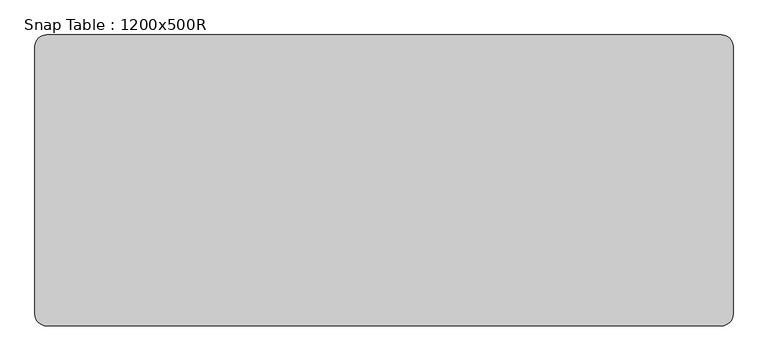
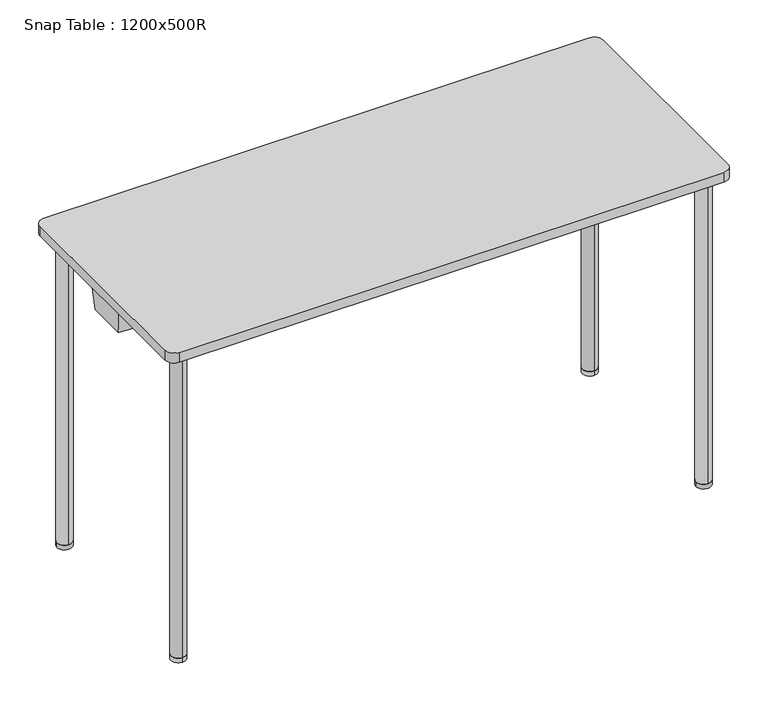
"""IFC4 building model written with IfcOpenShell, lengths in millimetres: furniture geometry, Snap Table : 1200x500R."""

import ifcopenshell
import ifcopenshell.guid

model = None  # the IFC model being written
_history = None  # IfcOwnerHistory: only IFC2X3 demands one
_inside = {}  # id of a spatial element -> (the spatial element, [elements in it])
_under = {}  # id of a project, library or spatial element -> (it, [spatial elements below it])
_declared = {}  # id of a project -> (the project, [libraries it declares])
_typed = {}  # id of a type object -> (the type object, [elements of that type])
_made_of = {}  # id of a material, layer set ... -> (it, [elements and type objects made of it])


def new_model(schema):
    """Start an empty IFC model of exactly this schema.

    Asked for "IFC4X3", IfcOpenShell would pick the latest addendum, in which some entities
    have other attributes; the version numbers below select the first issue.
    IFC2X3 requires an IfcOwnerHistory on every rooted entity: one is made here for all.
    """
    global model, _history
    if schema == "IFC4X3":
        model = ifcopenshell.file(schema_version=(4, 3, 0, 0))
    else:
        model = ifcopenshell.file(schema=schema)
    _inside.clear()
    _under.clear()
    _declared.clear()
    _typed.clear()
    _made_of.clear()
    _history = None
    if model.schema == "IFC2X3":
        org = make("IfcOrganization", Name="unknown")
        user = make(
            "IfcPersonAndOrganization",
            ThePerson=make("IfcPerson", FamilyName="unknown"),
            TheOrganization=org,
        )
        app = make(
            "IfcApplication",
            ApplicationDeveloper=org,
            Version="unknown",
            ApplicationFullName="unknown",
            ApplicationIdentifier="unknown",
        )
        _history = make(
            "IfcOwnerHistory",
            OwningUser=user,
            OwningApplication=app,
            ChangeAction="ADDED",
            CreationDate=0,
        )
    return model


def make(cls, **values):
    """One entity of the class cls with the attributes given. An attribute that is None is left unset."""
    return model.create_entity(
        cls, **{name: value for name, value in values.items() if value is not None}
    )


def rooted(cls, **values):
    """An entity with a GlobalId (a new one), such as an element, a storey or a relation."""
    return make(cls, GlobalId=ifcopenshell.guid.new(), OwnerHistory=_history, **values)


def si_unit(unit_type, name, prefix=None):
    """IfcSIUnit, for example si_unit("LENGTHUNIT", "METRE", prefix="MILLI")."""
    return make("IfcSIUnit", UnitType=unit_type, Prefix=prefix, Name=name)


def assignment(units):
    """IfcUnitAssignment: the units of a project."""
    return None if units is None else make("IfcUnitAssignment", Units=units)


def point(xyz):
    """IfcCartesianPoint."""
    return None if xyz is None else make("IfcCartesianPoint", Coordinates=xyz)


def direction(xyz):
    """IfcDirection."""
    return None if xyz is None else make("IfcDirection", DirectionRatios=xyz)


def frame(location, z_axis=None, x_axis=None):
    """IfcAxis2Placement3D, a coordinate frame: its origin and axes. An axis left out is left unset."""
    return make(
        "IfcAxis2Placement3D",
        Location=point(location),
        Axis=direction(z_axis),
        RefDirection=direction(x_axis),
    )


def frame_2d(location, x_axis=None):
    """IfcAxis2Placement2D, a coordinate frame in the plane: its origin and x axis."""
    return make(
        "IfcAxis2Placement2D", Location=point(location), RefDirection=direction(x_axis)
    )


def origin():
    """The frame at (0, 0, 0) with its axes left unset."""
    return frame((0.0, 0.0, 0.0))


def origin_with_axes():
    """The frame at (0, 0, 0) with the z axis (0, 0, 1) and the x axis (1, 0, 0) written out."""
    return frame((0.0, 0.0, 0.0), z_axis=(0.0, 0.0, 1.0), x_axis=(1.0, 0.0, 0.0))


def place(relative_to, where):
    """IfcLocalPlacement: puts the frame where relative to a parent placement (None: the world)."""
    return make(
        "IfcLocalPlacement", PlacementRelTo=relative_to, RelativePlacement=where
    )


def context(
    kind, dimensions, precision=None, world=None, true_north=None, identifier=None
):
    """IfcGeometricRepresentationContext, for example the 3D "Model" context."""
    return make(
        "IfcGeometricRepresentationContext",
        ContextIdentifier=identifier,
        ContextType=kind,
        CoordinateSpaceDimension=dimensions,
        Precision=precision,
        WorldCoordinateSystem=world,
        TrueNorth=true_north,
    )


def project(units=None, contexts=None):
    """IfcProject with its units and contexts."""
    return rooted(
        "IfcProject",
        Name="project",
        RepresentationContexts=contexts,
        UnitsInContext=assignment(units),
    )


def spatial(cls, under=None, at=None, **own):
    """A site, building, storey or space (cls), placed at a placement, below another one or the project."""
    s = rooted(cls, ObjectPlacement=at, **own)
    if under is not None:
        _under.setdefault(under.id(), (under, []))[1].append(s)
    return s


def polyline(points):
    """IfcPolyline through the points."""
    return make("IfcPolyline", Points=[point(p) for p in points])


def circle_curve(where, radius):
    """IfcCircle in the frame where."""
    return make("IfcCircle", Position=where, Radius=radius)


def ellipse_curve(where, semi_axis1, semi_axis2):
    """IfcEllipse in the frame where."""
    return make(
        "IfcEllipse", Position=where, SemiAxis1=semi_axis1, SemiAxis2=semi_axis2
    )


def trimmed(basis, trim1, trim2, sense, master):
    """IfcTrimmedCurve: the piece of a basis curve between two trims."""
    return make(
        "IfcTrimmedCurve",
        BasisCurve=basis,
        Trim1=trim1,
        Trim2=trim2,
        SenseAgreement=sense,
        MasterRepresentation=master,
    )


def segment(curve, same_sense, transition):
    """IfcCompositeCurveSegment."""
    return make(
        "IfcCompositeCurveSegment",
        Transition=transition,
        SameSense=same_sense,
        ParentCurve=curve,
    )


def composite_curve(segments, self_intersect=None):
    """IfcCompositeCurve: segments joined end to end."""
    return make("IfcCompositeCurve", Segments=segments, SelfIntersect=self_intersect)


def outline(outer, holes=None, kind="AREA"):
    """IfcArbitraryClosedProfileDef: a profile drawn as a closed curve; with holes, ...WithVoids."""
    if holes is None:
        return make("IfcArbitraryClosedProfileDef", ProfileType=kind, OuterCurve=outer)
    return make(
        "IfcArbitraryProfileDefWithVoids",
        ProfileType=kind,
        OuterCurve=outer,
        InnerCurves=holes,
    )


def extrude(swept, where, along, depth):
    """IfcExtrudedAreaSolid: the profile swept, set in the frame where, extruded along a direction by depth."""
    return make(
        "IfcExtrudedAreaSolid",
        SweptArea=swept,
        Position=where,
        ExtrudedDirection=direction(along),
        Depth=depth,
    )


def faces_of(points, faces, orient=None, outer=None):
    """IfcFace entities. A face is a list of loops; a loop is a list of indices into points, from 0.

    orient and outer hold one flag for each loop. By default every Orientation is true, the
    first loop of a face is its IfcFaceOuterBound and the others are IfcFaceBound.
    """
    made = []
    for i, loops in enumerate(faces):
        bounds = []
        for j, loop in enumerate(loops):
            is_outer = j == 0 if outer is None else outer[i][j]
            bounds.append(
                make(
                    "IfcFaceOuterBound" if is_outer else "IfcFaceBound",
                    Bound=make("IfcPolyLoop", Polygon=[points[k] for k in loop]),
                    Orientation=True if orient is None else orient[i][j],
                )
            )
        made.append(make("IfcFace", Bounds=bounds))
    return made


def faceted_brep(points, faces, orient=None, outer=None, voids=None):
    """IfcFacetedBrep: a solid bounded by flat faces; with voids (closed shells), ...WithVoids."""
    shared = [point(p) for p in points]
    hull = make("IfcClosedShell", CfsFaces=faces_of(shared, faces, orient, outer))
    if voids is None:
        return make("IfcFacetedBrep", Outer=hull)
    return make(
        "IfcFacetedBrepWithVoids",
        Outer=hull,
        Voids=[
            make(cls, CfsFaces=faces_of(shared, fs, o, b)) for cls, fs, o, b in voids
        ],
    )


def shape(context_of_items, identifier, shape_type, items):
    """IfcShapeRepresentation: the items that make up one representation, for example the "Body"."""
    return make(
        "IfcShapeRepresentation",
        ContextOfItems=context_of_items,
        RepresentationIdentifier=identifier,
        RepresentationType=shape_type,
        Items=items,
    )


def source(mapping_origin, context_of_items, identifier, shape_type, items):
    """IfcRepresentationMap: a shape defined once, which mapped items show again and again."""
    return make(
        "IfcRepresentationMap",
        MappingOrigin=mapping_origin,
        MappedRepresentation=shape(context_of_items, identifier, shape_type, items),
    )


def transform(
    local_origin,
    x_axis=None,
    y_axis=None,
    z_axis=None,
    scale=None,
    scale2=None,
    scale3=None,
    uniform=True,
):
    """IfcCartesianTransformationOperator3D, or its non-uniform kind. x_axis, y_axis, z_axis: its Axis1, 2, 3."""
    if uniform:
        return make(
            "IfcCartesianTransformationOperator3D",
            Axis1=direction(x_axis),
            Axis2=direction(y_axis),
            LocalOrigin=point(local_origin),
            Scale=scale,
            Axis3=direction(z_axis),
        )
    return make(
        "IfcCartesianTransformationOperator3DnonUniform",
        Axis1=direction(x_axis),
        Axis2=direction(y_axis),
        LocalOrigin=point(local_origin),
        Scale=scale,
        Axis3=direction(z_axis),
        Scale2=scale2,
        Scale3=scale3,
    )


def mapped(mapping_source, mapping_target):
    """IfcMappedItem: shows the shape of a source again, moved by a transform."""
    return make(
        "IfcMappedItem", MappingSource=mapping_source, MappingTarget=mapping_target
    )


def made_of(thing, what):
    """Note that an element or type object is made of a material, layer set ...; save() writes the relation."""
    if what is not None:
        _made_of.setdefault(what.id(), (what, []))[1].append(thing)
    return thing


def element(
    cls,
    number,
    at=None,
    inside=None,
    cuts=None,
    type_object=None,
    material=None,
    context=None,
    identifier="Body",
    shape_type=None,
    held_by="IfcProductDefinitionShape",
    body=None,
    shapes=None,
    **own,
):
    """One element of the class cls, such as IfcWall. Its Tag is "e" and its number.

    at: its placement. inside: the storey or other place that contains it. cuts: it is an
    opening in that element (IfcRelVoidsElement). A single representation is given by context,
    identifier, shape_type and body (its items); several are given by shapes. held_by: the class
    of the entity that holds the representations. save() writes the other relations.
    """
    e = rooted(cls, Tag="e%d" % number, ObjectPlacement=at, **own)
    if body is not None:
        shapes = [shape(context, identifier, shape_type, body)]
    if shapes is not None:
        e.Representation = make(held_by, Representations=shapes)
    if inside is not None:
        _inside.setdefault(inside.id(), (inside, []))[1].append(e)
    if cuts is not None:
        rooted(
            "IfcRelVoidsElement", RelatingBuildingElement=cuts, RelatedOpeningElement=e
        )
    if type_object is not None:
        _typed.setdefault(type_object.id(), (type_object, []))[1].append(e)
    return made_of(e, material)


def aggregate(whole, parts):
    """IfcRelAggregates: a whole, such as a stair, and the parts it consists of."""
    return rooted("IfcRelAggregates", RelatingObject=whole, RelatedObjects=parts)


def save(model, path):
    """Write the relations noted so far, then the file.

    IfcRelAggregates (storeys below a building ...), IfcRelContainedInSpatialStructure (elements
    in a storey), IfcRelDefinesByType, IfcRelAssociatesMaterial and IfcRelDeclares: one each for
    every whole, place, type object, material and project.
    """
    for whole, parts in _under.values():
        aggregate(whole, parts)
    for where, things in _inside.values():
        rooted(
            "IfcRelContainedInSpatialStructure",
            RelatedElements=things,
            RelatingStructure=where,
        )
    for kind, things in _typed.values():
        rooted("IfcRelDefinesByType", RelatedObjects=things, RelatingType=kind)
    for what, things in _made_of.values():
        rooted("IfcRelAssociatesMaterial", RelatedObjects=things, RelatingMaterial=what)
    for by, libraries in _declared.values():
        rooted("IfcRelDeclares", RelatingContext=by, RelatedDefinitions=libraries)
    model.write(path)


def plane_surface(at):
    """IfcPlane: the flat surface through the origin of the frame at, square to its z axis."""
    return make("IfcPlane", Position=at)


def cylinder_surface(at, radius):
    """IfcCylindricalSurface: all points at the distance radius from the z axis of the frame at."""
    return make("IfcCylindricalSurface", Position=at, Radius=radius)


def revolved_surface(curve, axis_point, axis_direction):
    """IfcSurfaceOfRevolution: the curve turned about the line through axis_point along axis_direction."""
    return make(
        "IfcSurfaceOfRevolution",
        SweptCurve=make("IfcArbitraryOpenProfileDef", ProfileType="CURVE", Curve=curve),
        AxisPosition=make("IfcAxis1Placement", Location=point(axis_point), Axis=direction(axis_direction)),
    )


def advanced_brep(points, edges, surfaces, faces):
    """IfcAdvancedBrep: a solid bounded by faces that lie on surfaces and meet in shared edges.

    An edge is (start, end): straight between two places in points (the first is 0);
    or (start, end, curve); or (start, end, curve, False) where it runs against its curve.
    A face is (place in surfaces, loops), or (place, loops, False) where it looks against
    its surface's normal. A loop lists edges by number (the first is 1), with a minus sign
    where the edge is run from its end to its start. The first loop is the outer one.
    """
    corners = [point(p) for p in points]
    vertices = [make("IfcVertexPoint", VertexGeometry=c) for c in corners]
    made = []
    for start, end, *more in edges:
        made.append(
            make(
                "IfcEdgeCurve",
                EdgeStart=vertices[start],
                EdgeEnd=vertices[end],
                EdgeGeometry=more[0] if more else make("IfcPolyline", Points=[corners[start], corners[end]]),
                SameSense=more[1] if len(more) > 1 else True,
            )
        )
    hull = []
    for where, loops, *sense in faces:
        bounds = []
        for j, loop in enumerate(loops):
            ring = [make("IfcOrientedEdge", EdgeElement=made[abs(k) - 1], Orientation=k > 0) for k in loop]
            bounds.append(
                make(
                    "IfcFaceOuterBound" if j == 0 else "IfcFaceBound",
                    Bound=make("IfcEdgeLoop", EdgeList=ring),
                    Orientation=True,
                )
            )
        hull.append(make("IfcAdvancedFace", Bounds=bounds, FaceSurface=surfaces[where], SameSense=sense[0] if sense else True))
    return make("IfcAdvancedBrep", Outer=make("IfcClosedShell", CfsFaces=hull))


def snap_table_1200x500r_93d43e71(model_context):
    return source(origin(), model_context, "Body", "SolidModel", [
        extrude(outline(composite_curve([segment(trimmed(circle_curve(frame_2d((560.0, -210.0)), 16.0), [point((576.0, -210.0))], [point((544.0, -210.0))], False, "CARTESIAN"), True, "CONTINUOUS"), segment(trimmed(circle_curve(frame_2d((560.0, -210.0)), 16.0), [point((544.0, -210.0))], [point((576.0, -210.0))], False, "CARTESIAN"), True, "CONTINUOUS")], self_intersect=False)), origin_with_axes(), (0.0, 0.0, 1.0), 10.0),
        extrude(outline(composite_curve([segment(trimmed(circle_curve(frame_2d((560.0, 210.0)), 16.0), [point((560.0, 194.0))], [point((560.0, 226.0))], False, "CARTESIAN"), True, "CONTINUOUS"), segment(trimmed(circle_curve(frame_2d((560.0, 210.0)), 16.0), [point((560.0, 226.0))], [point((560.0, 194.0))], False, "CARTESIAN"), True, "CONTINUOUS")], self_intersect=False)), origin_with_axes(), (0.0, 0.0, 1.0), 10.0),
        advanced_brep(
        [(560.0, -226.0, 10.0), (560.0, -194.0, 10.0), (560.0, -226.0, 689.0), (560.0, -194.0, 657.0), (560.0, 226.0, 689.0), (560.0, 194.0, 657.0), (560.0, 226.0, 10.0), (560.0, 194.0, 10.0)],
        [
            (0, 1, circle_curve(frame((560.0, -210.0, 10.0), z_axis=(0.0, 0.0, -1.0), x_axis=(0.0, 1.0, 0.0)), 16.0)),
            (1, 0, circle_curve(frame((560.0, -210.0, 10.0), z_axis=(0.0, 0.0, -1.0), x_axis=(0.0, 1.0, 0.0)), 16.0)),
            (0, 2),
            (2, 3, ellipse_curve(frame((560.0, -210.0, 673.0), z_axis=(0.0, -0.7071067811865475, -0.7071067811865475), x_axis=(0.0, 0.7071067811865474, -0.7071067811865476)), 22.627417, 16.0)),
            (3, 1),
            (3, 2, ellipse_curve(frame((560.0, -210.0, 673.0), z_axis=(0.0, -0.7071067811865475, -0.7071067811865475), x_axis=(0.0, 0.7071067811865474, -0.7071067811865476)), 22.627417, 16.0)),
            (2, 4),
            (4, 5, ellipse_curve(frame((560.0, 210.0, 673.0), z_axis=(0.0, -0.7071067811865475, 0.7071067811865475), x_axis=(0.0, -0.7071067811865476, -0.7071067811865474)), 22.627417, 16.0)),
            (5, 3),
            (5, 4, ellipse_curve(frame((560.0, 210.0, 673.0), z_axis=(0.0, -0.7071067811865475, 0.7071067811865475), x_axis=(0.0, -0.7071067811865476, -0.7071067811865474)), 22.627417, 16.0)),
            (6, 7, circle_curve(frame((560.0, 210.0, 10.0), z_axis=(0.0, 0.0, -1.0), x_axis=(0.0, -1.0, 0.0)), 16.0)),
            (7, 6, circle_curve(frame((560.0, 210.0, 10.0), z_axis=(0.0, 0.0, -1.0), x_axis=(0.0, -1.0, 0.0)), 16.0)),
            (4, 6),
            (7, 5),
        ],
        [
            plane_surface(frame((560.0, -210.0, 10.0), z_axis=(0.0, 0.0, -1.0), x_axis=(-1.0, 0.0, 0.0))),
            cylinder_surface(frame((560.0, -210.0, 10.0), z_axis=(0.0, 0.0, -1.0), x_axis=(0.0, 1.0, 0.0)), 16.0),
            cylinder_surface(frame((560.0, -210.0, 673.0), z_axis=(0.0, -1.0, 0.0), x_axis=(0.0, 0.0, -1.0)), 16.0),
            plane_surface(frame((560.0, 210.0, 10.0), z_axis=(0.0, 0.0, -1.0), x_axis=(-1.0, 0.0, 0.0))),
            cylinder_surface(frame((560.0, 210.0, 673.0), z_axis=(0.0, 0.0, 1.0), x_axis=(0.0, -1.0, 0.0)), 16.0),
        ],
        [
            (0, [[1, 2]]),
            (1, [[-1, 3, 4, 5]]),
            (1, [[-2, -5, 6, -3]]),
            (2, [[-4, 7, 8, 9]]),
            (2, [[-6, -9, 10, -7]]),
            (3, [[11, 12]]),
            (4, [[-8, 13, -12, 14]]),
            (4, [[-10, -14, -11, -13]]),
        ],
    ),
        extrude(outline(composite_curve([segment(trimmed(circle_curve(frame_2d((-560.0470276, 210.0)), 16.0), [point((-576.0470276, 210.0))], [point((-544.0470276, 210.0))], False, "CARTESIAN"), True, "CONTINUOUS"), segment(trimmed(circle_curve(frame_2d((-560.0470276, 210.0)), 16.0), [point((-544.0470276, 210.0))], [point((-576.0470276, 210.0))], False, "CARTESIAN"), True, "CONTINUOUS")], self_intersect=False)), origin_with_axes(), (0.0, 0.0, 1.0), 10.0),
        extrude(outline(composite_curve([segment(trimmed(circle_curve(frame_2d((-560.0470276, -210.0)), 16.0), [point((-560.0470276, -194.0))], [point((-560.0470276, -226.0))], False, "CARTESIAN"), True, "CONTINUOUS"), segment(trimmed(circle_curve(frame_2d((-560.0470276, -210.0)), 16.0), [point((-560.0470276, -226.0))], [point((-560.0470276, -194.0))], False, "CARTESIAN"), True, "CONTINUOUS")], self_intersect=False)), origin_with_axes(), (0.0, 0.0, 1.0), 10.0),
        advanced_brep(
        [(-560.0470276, 226.0, 10.0), (-560.0470276, 194.0, 10.0), (-560.0470276, 226.0, 689.0), (-560.0470276, 194.0, 657.0), (-560.0470276, -226.0, 689.0), (-560.0470276, -194.0, 657.0), (-560.0470276, -226.0, 10.0), (-560.0470276, -194.0, 10.0)],
        [
            (0, 1, circle_curve(frame((-560.0470276, 210.0, 10.0), z_axis=(0.0, 0.0, -1.0), x_axis=(0.0, -1.0, 0.0)), 16.0)),
            (1, 0, circle_curve(frame((-560.0470276, 210.0, 10.0), z_axis=(0.0, 0.0, -1.0), x_axis=(0.0, -1.0, 0.0)), 16.0)),
            (0, 2),
            (2, 3, ellipse_curve(frame((-560.0470276, 210.0, 673.0), z_axis=(0.0, 0.7071067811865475, -0.7071067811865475), x_axis=(0.0, -0.7071067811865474, -0.7071067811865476)), 22.627417, 16.0)),
            (3, 1),
            (3, 2, ellipse_curve(frame((-560.0470276, 210.0, 673.0), z_axis=(0.0, 0.7071067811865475, -0.7071067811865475), x_axis=(0.0, -0.7071067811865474, -0.7071067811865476)), 22.627417, 16.0)),
            (2, 4),
            (4, 5, ellipse_curve(frame((-560.0470276, -210.0, 673.0), z_axis=(0.0, 0.7071067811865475, 0.7071067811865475), x_axis=(0.0, 0.7071067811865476, -0.7071067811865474)), 22.627417, 16.0)),
            (5, 3),
            (5, 4, ellipse_curve(frame((-560.0470276, -210.0, 673.0), z_axis=(0.0, 0.7071067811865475, 0.7071067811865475), x_axis=(0.0, 0.7071067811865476, -0.7071067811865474)), 22.627417, 16.0)),
            (6, 7, circle_curve(frame((-560.0470276, -210.0, 10.0), z_axis=(0.0, 0.0, -1.0), x_axis=(0.0, 1.0, 0.0)), 16.0)),
            (7, 6, circle_curve(frame((-560.0470276, -210.0, 10.0), z_axis=(0.0, 0.0, -1.0), x_axis=(0.0, 1.0, 0.0)), 16.0)),
            (4, 6),
            (7, 5),
        ],
        [
            plane_surface(frame((-560.0470276, 210.0, 10.0), z_axis=(0.0, 0.0, -1.0), x_axis=(1.0, 0.0, 0.0))),
            cylinder_surface(frame((-560.0470276, 210.0, 10.0), z_axis=(0.0, 0.0, -1.0), x_axis=(0.0, -1.0, 0.0)), 16.0),
            cylinder_surface(frame((-560.0470276, 210.0, 673.0), z_axis=(0.0, 1.0, 0.0), x_axis=(0.0, 0.0, -1.0)), 16.0),
            plane_surface(frame((-560.0470276, -210.0, 10.0), z_axis=(0.0, 0.0, -1.0), x_axis=(1.0, 0.0, 0.0))),
            cylinder_surface(frame((-560.0470276, -210.0, 673.0), z_axis=(0.0, 0.0, 1.0), x_axis=(0.0, 1.0, 0.0)), 16.0),
        ],
        [
            (0, [[1, 2]]),
            (1, [[-1, 3, 4, 5]]),
            (1, [[-2, -5, 6, -3]]),
            (2, [[-4, 7, 8, 9]]),
            (2, [[-6, -9, 10, -7]]),
            (3, [[11, 12]]),
            (4, [[-8, 13, -12, 14]]),
            (4, [[-10, -14, -11, -13]]),
        ],
    ),
        extrude(outline(composite_curve([segment(trimmed(circle_curve(frame_2d((580.0, 230.0)), 20.0), [point((580.0, 250.0))], [point((600.0, 230.0))], False, "CARTESIAN"), True, "CONTINUOUS"), segment(polyline([(600.0, 230.0), (600.0, -230.0)]), True, "CONTINUOUS"), segment(trimmed(circle_curve(frame_2d((580.0, -230.0)), 20.0), [point((600.0, -230.0))], [point((580.0, -250.0))], False, "CARTESIAN"), True, "CONTINUOUS"), segment(polyline([(580.0, -250.0), (-580.0, -250.0)]), True, "CONTINUOUS"), segment(trimmed(circle_curve(frame_2d((-580.0, -230.0)), 20.0), [point((-580.0, -250.0))], [point((-600.0, -230.0))], False, "CARTESIAN"), True, "CONTINUOUS"), segment(polyline([(-600.0, -230.0), (-600.0, 230.0)]), True, "CONTINUOUS"), segment(trimmed(circle_curve(frame_2d((-580.0, 230.0)), 20.0), [point((-600.0, 230.0))], [point((-580.0, 250.0))], False, "CARTESIAN"), True, "CONTINUOUS"), segment(polyline([(-580.0, 250.0), (580.0, 250.0)]), True, "CONTINUOUS")], self_intersect=False)), frame((0.0, 0.0, 698.0), z_axis=(0.0, 0.0, 1.0), x_axis=(1.0, 0.0, 0.0)), (0.0, 0.0, 1.0), 22.0),
        advanced_brep(
        [(-590.8110657, 42.2236058, 643.0), (-557.6910354, 44.5767873, 643.0), (-540.5708933, 36.0824003, 643.0), (540.5710292, 36.0824678, 643.0), (557.6910354, 44.5767873, 643.0), (590.8110657, 42.2236058, 643.0), (590.8110657, -42.2236058, 643.0), (557.6044607, -44.2417031, 643.0), (540.4018781, -36.0497649, 643.0), (-540.4020196, -36.0498323, 643.0), (-557.6044607, -44.2417031, 643.0), (-590.8110657, -42.2236058, 643.0), (-594.8110657, 48.9570516, 698.0), (-594.8110657, -48.9934252, 698.0), (-556.225892, -51.3383995, 698.0), (-534.6205129, -41.049832, 698.0), (534.6203726, -41.0497653, 698.0), (556.225892, -51.3383995, 698.0), (594.8110657, -48.9934252, 698.0), (594.8110657, 48.9570516, 698.0), (556.286594, 51.6942192, 698.0), (534.8989768, 41.0824675, 698.0), (-534.8988421, 41.0824007, 698.0), (-556.286594, 51.6942192, 698.0), (-557.2475737, -46.0789118, 657.2385232), (-576.0, -46.9489596, 673.0), (-556.4614069, -50.125999, 688.6037931), (-544.0, -41.9922101, 673.0), (557.2475737, -46.0789118, 657.2385232), (544.0, -41.9922101, 673.0), (556.4614069, -50.125999, 688.6037931), (576.0, -46.9489596, 673.0), (557.3278029, 46.4175782, 657.2247231), (576.0, 47.1037405, 673.0), (556.5261576, 50.4801582, 688.618336), (544.0, 42.0461233, 673.0), (-557.3278029, 46.4175782, 657.2247231), (-544.0, 42.0461233, 673.0), (-556.5261576, 50.4801582, 688.618336), (-576.0, 47.1037405, 673.0)],
        [
            (0, 1),
            (1, 2),
            (2, 3),
            (3, 4),
            (4, 5),
            (5, 6),
            (6, 7),
            (7, 8),
            (8, 9),
            (9, 10),
            (10, 11),
            (11, 0),
            (12, 13),
            (13, 14),
            (14, 15),
            (15, 16),
            (16, 17),
            (17, 18),
            (18, 19),
            (19, 20),
            (20, 21),
            (21, 22),
            (22, 23),
            (23, 12),
            (11, 13),
            (12, 0),
            (10, 24),
            (24, 25, ellipse_curve(frame((-560.0, -47.9213432, 673.0), z_axis=(0.060176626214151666, 0.9901710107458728, 0.12625427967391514), x_axis=(0.42602826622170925, -0.13986196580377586, 0.893833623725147)), 16.1588249, 16.0)),
            (25, 26, ellipse_curve(frame((-560.0, -47.9213432, 673.0), z_axis=(0.060176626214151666, 0.9901710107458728, 0.12625427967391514), x_axis=(0.42602826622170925, -0.13986196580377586, 0.893833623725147)), 16.1588249, 16.0)),
            (26, 14),
            (9, 15),
            (26, 27, ellipse_curve(frame((-560.0, -49.6114737, 673.0), z_axis=(-0.426503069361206, 0.895631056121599, 0.1262542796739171), x_axis=(-0.8587935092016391, -0.4447977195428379, 0.2542217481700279)), 17.8644989, 16.0)),
            (27, 24, ellipse_curve(frame((-560.0, -49.6114737, 673.0), z_axis=(-0.426503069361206, 0.895631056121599, 0.1262542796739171), x_axis=(-0.8587935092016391, -0.4447977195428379, 0.2542217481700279)), 17.8644989, 16.0)),
            (8, 16),
            (7, 28),
            (28, 29, ellipse_curve(frame((560.0, -49.6114737, 673.0), z_axis=(0.42650306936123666, 0.8956310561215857, 0.1262542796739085), x_axis=(0.858793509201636, -0.4447977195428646, 0.2542217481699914)), 17.8644989, 16.0)),
            (29, 30, ellipse_curve(frame((560.0, -49.6114737, 673.0), z_axis=(0.42650306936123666, 0.8956310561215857, 0.1262542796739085), x_axis=(0.858793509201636, -0.4447977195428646, 0.2542217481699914)), 17.8644989, 16.0)),
            (30, 17),
            (6, 18),
            (30, 31, ellipse_curve(frame((560.0, -47.9213432, 673.0), z_axis=(-0.06017662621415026, 0.9901710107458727, 0.1262542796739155), x_axis=(-0.4260282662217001, -0.13986196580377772, 0.8938336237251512)), 16.1588249, 16.0)),
            (31, 28, ellipse_curve(frame((560.0, -47.9213432, 673.0), z_axis=(-0.06017662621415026, 0.9901710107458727, 0.1262542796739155), x_axis=(-0.4260282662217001, -0.13986196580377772, 0.8938336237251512)), 16.1588249, 16.0)),
            (5, 19),
            (4, 32),
            (32, 33, ellipse_curve(frame((560.0, 48.2405422, 673.0), z_axis=(-0.07030432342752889, -0.9895034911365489, 0.1262542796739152), x_axis=(0.48139832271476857, -0.14450896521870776, -0.8645072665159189)), 16.1697257, 16.0)),
            (33, 34, ellipse_curve(frame((560.0, 48.2405422, 673.0), z_axis=(-0.07030432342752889, -0.9895034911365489, 0.1262542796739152), x_axis=(0.48139832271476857, -0.14450896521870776, -0.8645072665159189)), 16.1697257, 16.0)),
            (34, 20),
            (3, 21),
            (34, 35, ellipse_curve(frame((560.0, 49.9847369, 673.0), z_axis=(0.44090536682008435, -0.8886294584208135, 0.12625427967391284), x_axis=(-0.8542943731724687, -0.45862586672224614, -0.24462918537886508)), 18.005255, 16.0)),
            (35, 32, ellipse_curve(frame((560.0, 49.9847369, 673.0), z_axis=(0.44090536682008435, -0.8886294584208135, 0.12625427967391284), x_axis=(-0.8542943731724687, -0.45862586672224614, -0.24462918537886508)), 18.005255, 16.0)),
            (2, 22),
            (1, 36),
            (36, 37, ellipse_curve(frame((-560.0, 49.9847369, 673.0), z_axis=(-0.4409053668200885, -0.8886294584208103, 0.12625427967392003), x_axis=(0.8542943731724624, -0.45862586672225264, -0.24462918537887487)), 18.005255, 16.0)),
            (37, 38, ellipse_curve(frame((-560.0, 49.9847369, 673.0), z_axis=(-0.4409053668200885, -0.8886294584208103, 0.12625427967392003), x_axis=(0.8542943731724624, -0.45862586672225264, -0.24462918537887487)), 18.005255, 16.0)),
            (38, 23),
            (38, 39, ellipse_curve(frame((-560.0, 48.2405422, 673.0), z_axis=(0.07030432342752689, -0.9895034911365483, 0.1262542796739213), x_axis=(-0.48139832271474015, -0.1445089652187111, -0.8645072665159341)), 16.1697257, 16.0)),
            (39, 36, ellipse_curve(frame((-560.0, 48.2405422, 673.0), z_axis=(0.07030432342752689, -0.9895034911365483, 0.1262542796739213), x_axis=(-0.48139832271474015, -0.1445089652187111, -0.8645072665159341)), 16.1697257, 16.0)),
            (35, 29),
            (31, 33),
            (39, 25),
            (27, 37),
        ],
        [
            plane_surface(frame((-5e-07, 0.0612866, 643.0), z_axis=(0.0, 0.0, -1.0), x_axis=(0.0, -1.0, 0.0))),
            plane_surface(frame((-5e-07, 0.0586803, 698.0), z_axis=(0.0, 0.0, 1.0), x_axis=(0.0, -1.0, 0.0))),
            plane_surface(frame((-594.8110657, -0.0181868, 698.0), z_axis=(-0.9973658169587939, 0.0, -0.07253569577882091), x_axis=(0.0, 1.0, 0.0))),
            plane_surface(frame((-575.5184789, -50.1659123, 698.0), z_axis=(-0.060176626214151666, -0.9901710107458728, -0.12625427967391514), x_axis=(-0.9981583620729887, 0.06066204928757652, 0.0))),
            plane_surface(frame((-545.4232025, -46.1941158, 698.0), z_axis=(0.426503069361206, -0.895631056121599, -0.1262542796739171), x_axis=(-0.9028557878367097, -0.4299435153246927, 0.0))),
            plane_surface(frame((-7.01e-05, -41.0497986, 698.0), z_axis=(6.211245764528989e-08, -0.9958932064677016, -0.09053574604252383), x_axis=(-0.9999999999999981, -6.236859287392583e-08, 0.0))),
            plane_surface(frame((545.4231323, -46.1940824, 698.0), z_axis=(-0.42650306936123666, -0.8956310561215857, -0.1262542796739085), x_axis=(-0.9028557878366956, 0.4299435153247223, 0.0))),
            plane_surface(frame((575.5184789, -50.1659123, 698.0), z_axis=(0.06017662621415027, -0.9901710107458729, -0.12625427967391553), x_axis=(-0.9981583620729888, -0.060662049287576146, 0.0))),
            plane_surface(frame((594.8110657, -0.0181868, 698.0), z_axis=(0.9973658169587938, 0.0, -0.07253569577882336), x_axis=(0.0, -1.0, 0.0))),
            plane_surface(frame((575.5488298, 50.3256354, 698.0), z_axis=(0.07030432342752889, 0.9895034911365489, -0.1262542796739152), x_axis=(0.9974854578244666, -0.07087144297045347, 0.0))),
            plane_surface(frame((545.5927854, 46.3883433, 698.0), z_axis=(-0.44090536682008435, 0.8886294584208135, -0.12625427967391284), x_axis=(0.8957977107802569, 0.44446199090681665, 0.0))),
            plane_surface(frame((6.73e-05, 41.082434, 698.0), z_axis=(-6.210942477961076e-08, 0.995893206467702, -0.09053574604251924), x_axis=(0.9999999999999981, 6.236554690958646e-08, 0.0))),
            plane_surface(frame((-545.5927181, 46.3883099, 698.0), z_axis=(0.44090536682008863, 0.8886294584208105, -0.12625427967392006), x_axis=(0.8957977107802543, -0.4444619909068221, 0.0))),
            plane_surface(frame((-575.5488298, 50.3256354, 698.0), z_axis=(-0.07030432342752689, 0.9895034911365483, -0.1262542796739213), x_axis=(0.9974854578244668, 0.07087144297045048, 0.0))),
            revolved_surface(polyline([(576.0, -57.55756207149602, 673.0), (576.0, 58.242412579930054, 673.0)]), (560.0, 70.0, 673.0), (0.0, -1.0, 0.0)),
            revolved_surface(polyline([(-576.0, -57.55756207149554, 673.0), (-576.0, 58.242412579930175, 673.0)]), (-560.0, 70.0, 673.0), (0.0, -1.0, 0.0)),
        ],
        [
            (0, [[1, 2, 3, 4, 5, 6, 7, 8, 9, 10, 11, 12]]),
            (1, [[13, 14, 15, 16, 17, 18, 19, 20, 21, 22, 23, 24]]),
            (2, [[-12, 25, -13, 26]]),
            (3, [[-11, 27, 28, 29, 30, -14, -25]]),
            (4, [[-10, 31, -15, -30, 32, 33, -27]]),
            (5, [[-9, 34, -16, -31]]),
            (6, [[-8, 35, 36, 37, 38, -17, -34]]),
            (7, [[-7, 39, -18, -38, 40, 41, -35]]),
            (8, [[-6, 42, -19, -39]]),
            (9, [[-5, 43, 44, 45, 46, -20, -42]]),
            (10, [[-4, 47, -21, -46, 48, 49, -43]]),
            (11, [[-3, 50, -22, -47]]),
            (12, [[-2, 51, 52, 53, 54, -23, -50]]),
            (13, [[-1, -26, -24, -54, 55, 56, -51]]),
            (14, [[57, -36, -41, 58, -44, -49]]),
            (14, [[-57, -48, -45, -58, -40, -37]]),
            (15, [[59, -28, -33, 60, -52, -56]]),
            (15, [[-59, -55, -53, -60, -32, -29]]),
        ],
    ),
        faceted_brep([(530.1271057, 132.1409864, 643.0), (530.1271057, 177.0366315, 643.0), (541.3990784, 177.0366315, 643.0), (541.3990784, 132.1409864, 643.0), (526.2186584, 128.0138349, 688.0), (544.2631531, 128.0138349, 688.0), (544.2631531, 181.163783, 688.0), (526.2186584, 181.163783, 688.0)], [[[0, 1, 2, 3]], [[4, 5, 6, 7]], [[5, 4, 0, 3]], [[6, 5, 3, 2]], [[7, 6, 2, 1]], [[4, 7, 1, 0]]]),
        extrude(outline(polyline([(526.2186584, 181.163783), (577.86026, 181.163783), (577.86026, 128.0138349), (526.2186584, 128.0138349), (526.2186584, 181.163783)])), frame((0.0, 0.0, 688.0), z_axis=(0.0, 0.0, 1.0), x_axis=(1.0, 0.0, 0.0)), (0.0, 0.0, 1.0), 10.0),
        faceted_brep([(530.1271057, -132.1409864, 643.0), (541.3990784, -132.1409864, 643.0), (541.3990784, -177.0366315, 643.0), (530.1271057, -177.0366315, 643.0), (526.2186584, -128.0138349, 688.0), (526.2186584, -181.163783, 688.0), (544.2631531, -181.163783, 688.0), (544.2631531, -128.0138349, 688.0)], [[[0, 1, 2, 3]], [[4, 5, 6, 7]], [[4, 7, 1, 0]], [[7, 6, 2, 1]], [[6, 5, 3, 2]], [[5, 4, 0, 3]]]),
        extrude(outline(polyline([(526.2186584, -181.163783), (526.2186584, -128.0138349), (577.86026, -128.0138349), (577.86026, -181.163783), (526.2186584, -181.163783)])), frame((0.0, 0.0, 688.0), z_axis=(0.0, 0.0, 1.0), x_axis=(1.0, 0.0, 0.0)), (0.0, 0.0, 1.0), 10.0),
        faceted_brep([(-530.1271057, 132.1409864, 643.0), (-541.3990784, 132.1409864, 643.0), (-541.3990784, 177.0366315, 643.0), (-530.1271057, 177.0366315, 643.0), (-526.2186584, 128.0138349, 688.0), (-526.2186584, 181.163783, 688.0), (-544.2631531, 181.163783, 688.0), (-544.2631531, 128.0138349, 688.0)], [[[0, 1, 2, 3]], [[4, 5, 6, 7]], [[4, 7, 1, 0]], [[7, 6, 2, 1]], [[6, 5, 3, 2]], [[5, 4, 0, 3]]]),
        extrude(outline(polyline([(-526.2186584, 181.163783), (-526.2186584, 128.0138349), (-577.86026, 128.0138349), (-577.86026, 181.163783), (-526.2186584, 181.163783)])), frame((0.0, 0.0, 688.0), z_axis=(0.0, 0.0, 1.0), x_axis=(1.0, 0.0, 0.0)), (0.0, 0.0, 1.0), 10.0),
        faceted_brep([(-530.1271057, -132.1409864, 643.0), (-530.1271057, -177.0366315, 643.0), (-541.3990784, -177.0366315, 643.0), (-541.3990784, -132.1409864, 643.0), (-526.2186584, -128.0138349, 688.0), (-544.2631531, -128.0138349, 688.0), (-544.2631531, -181.163783, 688.0), (-526.2186584, -181.163783, 688.0)], [[[0, 1, 2, 3]], [[4, 5, 6, 7]], [[5, 4, 0, 3]], [[6, 5, 3, 2]], [[7, 6, 2, 1]], [[4, 7, 1, 0]]]),
        extrude(outline(polyline([(-526.2186584, -181.163783), (-577.86026, -181.163783), (-577.86026, -128.0138349), (-526.2186584, -128.0138349), (-526.2186584, -181.163783)])), frame((0.0, 0.0, 688.0), z_axis=(0.0, 0.0, 1.0), x_axis=(1.0, 0.0, 0.0)), (0.0, 0.0, 1.0), 10.0),
    ])


if __name__ == "__main__":
    model = new_model("IFC4")
    model_context = context("Model", 3, world=origin())
    ifc_project = project(units=[si_unit("LENGTHUNIT", "METRE", prefix="MILLI")], contexts=[model_context])
    site = spatial("IfcSite", under=ifc_project)
    building = spatial("IfcBuilding", under=site)
    placement = place(None, origin())
    snap_table_1200x500r_shape = snap_table_1200x500r_93d43e71(model_context)
    element("IfcFurniture", 1, ObjectType="Snap Table : 1200x500R", at=placement, inside=building, context=model_context, shape_type="MappedRepresentation", body=[
        mapped(snap_table_1200x500r_shape, transform((0.0, 0.0, 0.0), x_axis=(1.0, 0.0, 0.0), y_axis=(0.0, 1.0, 0.0), z_axis=(0.0, 0.0, 1.0))),
    ])
    save(model, "model.ifc")
